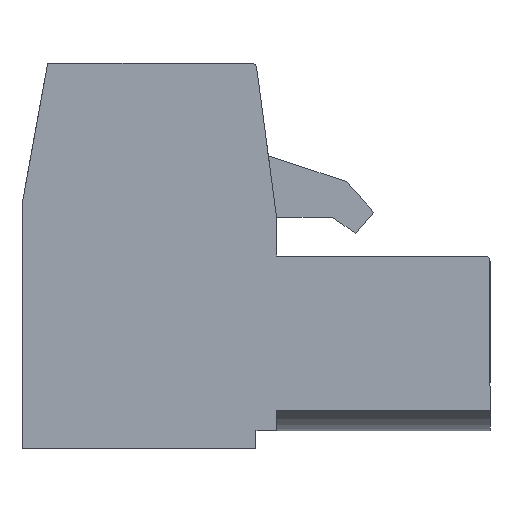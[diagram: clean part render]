
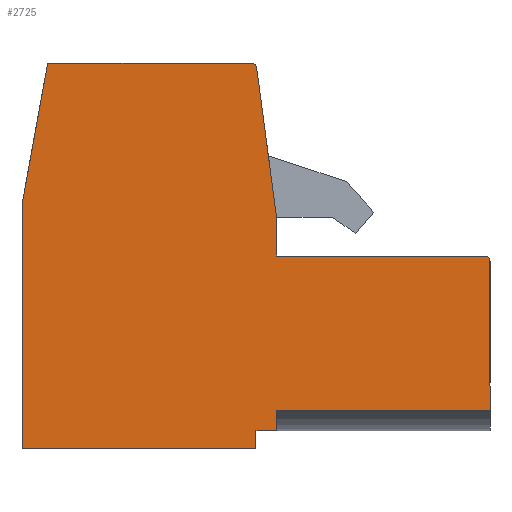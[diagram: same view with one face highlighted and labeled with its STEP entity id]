
A CAD part, left-side view. The second image highlights one B-rep face of the part: STEP entity #2725.
In plain terms, the highlighted planar face has unit normal (-1, 0, 0).
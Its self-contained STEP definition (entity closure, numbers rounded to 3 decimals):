
#1 = ORIENTED_EDGE ( 'NONE', *, *, #3418, .F. ) ;
#43 = ORIENTED_EDGE ( 'NONE', *, *, #3727, .F. ) ;
#72 = EDGE_CURVE ( 'NONE', #4187, #2419, #2511, .T. ) ;
#129 = EDGE_LOOP ( 'NONE', ( #3943, #3172, #4145, #239, #3995, #1, #1254, #2007, #2564, #1830, #43, #2865, #3054, #3210 ) ) ;
#158 = CARTESIAN_POINT ( 'NONE',  ( -7.6, 0., 0. ) ) ;
#180 = CARTESIAN_POINT ( 'NONE',  ( -7.6, -1., 15. ) ) ;
#239 = ORIENTED_EDGE ( 'NONE', *, *, #4026, .F. ) ;
#304 = DIRECTION ( 'NONE',  ( 0., 0., 1. ) ) ;
#336 = AXIS2_PLACEMENT_3D ( 'NONE', #3620, #2871, #4335 ) ;
#349 = CARTESIAN_POINT ( 'NONE',  ( -7.6, -18.2, 7.5 ) ) ;
#368 = CARTESIAN_POINT ( 'NONE',  ( -7.6, -18.2, 7.3 ) ) ;
#392 = LINE ( 'NONE', #1920, #4081 ) ;
#490 = CARTESIAN_POINT ( 'NONE',  ( -7.6, -9.1, 0. ) ) ;
#494 = VECTOR ( 'NONE', #3893, 1000. ) ;
#599 = EDGE_CURVE ( 'NONE', #4566, #3355, #1851, .T. ) ;
#617 = EDGE_CURVE ( 'NONE', #1574, #3158, #392, .T. ) ;
#648 = CARTESIAN_POINT ( 'NONE',  ( -7.6, -1., 15. ) ) ;
#670 = LINE ( 'NONE', #2075, #2025 ) ;
#727 = LINE ( 'NONE', #349, #2276 ) ;
#748 = CARTESIAN_POINT ( 'NONE',  ( -7.6, -9.9, 7.5 ) ) ;
#804 = CARTESIAN_POINT ( 'NONE',  ( -7.6, -8.925, 14.8 ) ) ;
#873 = VERTEX_POINT ( 'NONE', #985 ) ;
#955 = CARTESIAN_POINT ( 'NONE',  ( -7.6, -9.1, 0.7 ) ) ;
#985 = CARTESIAN_POINT ( 'NONE',  ( -7.6, -9.1, 0. ) ) ;
#1003 = CARTESIAN_POINT ( 'NONE',  ( -7.6, -18.2, 1.5 ) ) ;
#1037 = AXIS2_PLACEMENT_3D ( 'NONE', #4301, #4376, #4014 ) ;
#1099 = VECTOR ( 'NONE', #2304, 1000. ) ;
#1100 = CIRCLE ( 'NONE', #336, 0.2 ) ;
#1184 = DIRECTION ( 'NONE',  ( 0., 1., 0. ) ) ;
#1219 = VERTEX_POINT ( 'NONE', #4236 ) ;
#1242 = LINE ( 'NONE', #3483, #494 ) ;
#1254 = ORIENTED_EDGE ( 'NONE', *, *, #2818, .T. ) ;
#1285 = EDGE_CURVE ( 'NONE', #4566, #1219, #1100, .T. ) ;
#1401 = CARTESIAN_POINT ( 'NONE',  ( -7.6, -18.2, 0.7 ) ) ;
#1423 = EDGE_CURVE ( 'NONE', #2786, #3355, #2201, .T. ) ;
#1427 = LINE ( 'NONE', #3594, #1729 ) ;
#1574 = VERTEX_POINT ( 'NONE', #3899 ) ;
#1611 = EDGE_CURVE ( 'NONE', #2153, #2640, #3565, .T. ) ;
#1618 = DIRECTION ( 'NONE',  ( 0., -0.132, -0.991 ) ) ;
#1705 = CARTESIAN_POINT ( 'NONE',  ( -7.6, -9.123, 14.826 ) ) ;
#1729 = VECTOR ( 'NONE', #304, 1000. ) ;
#1817 = CARTESIAN_POINT ( 'NONE',  ( -7.6, -9.9, 1.5 ) ) ;
#1830 = ORIENTED_EDGE ( 'NONE', *, *, #2741, .F. ) ;
#1851 = LINE ( 'NONE', #1873, #1099 ) ;
#1873 = CARTESIAN_POINT ( 'NONE',  ( -7.6, -18.2, 7.5 ) ) ;
#1907 = EDGE_CURVE ( 'NONE', #2419, #873, #1242, .T. ) ;
#1920 = CARTESIAN_POINT ( 'NONE',  ( -7.6, -9.9, 7.5 ) ) ;
#2007 = ORIENTED_EDGE ( 'NONE', *, *, #1611, .F. ) ;
#2025 = VECTOR ( 'NONE', #4337, 1000. ) ;
#2075 = CARTESIAN_POINT ( 'NONE',  ( -7.6, -9.9, 0. ) ) ;
#2086 = EDGE_CURVE ( 'NONE', #2379, #2153, #2902, .T. ) ;
#2153 = VERTEX_POINT ( 'NONE', #3765 ) ;
#2201 = LINE ( 'NONE', #2272, #2250 ) ;
#2250 = VECTOR ( 'NONE', #3646, 1000. ) ;
#2272 = CARTESIAN_POINT ( 'NONE',  ( -7.6, -9.9, 1.5 ) ) ;
#2276 = VECTOR ( 'NONE', #3542, 1000. ) ;
#2304 = DIRECTION ( 'NONE',  ( 0., 0., -1. ) ) ;
#2363 = CARTESIAN_POINT ( 'NONE',  ( -7.6, -8.925, 15. ) ) ;
#2379 = VERTEX_POINT ( 'NONE', #3089 ) ;
#2419 = VERTEX_POINT ( 'NONE', #955 ) ;
#2424 = VECTOR ( 'NONE', #1184, 1000. ) ;
#2490 = EDGE_CURVE ( 'NONE', #4187, #2786, #670, .T. ) ;
#2494 = CIRCLE ( 'NONE', #2651, 0.2 ) ;
#2511 = LINE ( 'NONE', #1401, #3391 ) ;
#2564 = ORIENTED_EDGE ( 'NONE', *, *, #2086, .F. ) ;
#2640 = VERTEX_POINT ( 'NONE', #2363 ) ;
#2651 = AXIS2_PLACEMENT_3D ( 'NONE', #804, #3325, #3738 ) ;
#2654 = VECTOR ( 'NONE', #1618, 1000. ) ;
#2725 = ADVANCED_FACE ( 'NONE', ( #4670 ), #2933, .F. ) ;
#2741 = EDGE_CURVE ( 'NONE', #3838, #2379, #1427, .T. ) ;
#2786 = VERTEX_POINT ( 'NONE', #1817 ) ;
#2788 = VECTOR ( 'NONE', #3824, 1000. ) ;
#2818 = EDGE_CURVE ( 'NONE', #4442, #2640, #2494, .T. ) ;
#2865 = ORIENTED_EDGE ( 'NONE', *, *, #1907, .F. ) ;
#2871 = DIRECTION ( 'NONE',  ( -1., 0., 0. ) ) ;
#2902 = LINE ( 'NONE', #648, #2946 ) ;
#2933 = PLANE ( 'NONE',  #1037 ) ;
#2946 = VECTOR ( 'NONE', #3288, 1000. ) ;
#3054 = ORIENTED_EDGE ( 'NONE', *, *, #72, .F. ) ;
#3089 = CARTESIAN_POINT ( 'NONE',  ( -7.6, 0., 9.5 ) ) ;
#3158 = VERTEX_POINT ( 'NONE', #748 ) ;
#3172 = ORIENTED_EDGE ( 'NONE', *, *, #599, .F. ) ;
#3210 = ORIENTED_EDGE ( 'NONE', *, *, #2490, .T. ) ;
#3288 = DIRECTION ( 'NONE',  ( 0., -0.179, 0.984 ) ) ;
#3313 = DIRECTION ( 'NONE',  ( 0., 0., -1. ) ) ;
#3321 = DIRECTION ( 'NONE',  ( 0., 1., 0. ) ) ;
#3325 = DIRECTION ( 'NONE',  ( -1., 0., 0. ) ) ;
#3355 = VERTEX_POINT ( 'NONE', #1003 ) ;
#3391 = VECTOR ( 'NONE', #3321, 1000. ) ;
#3418 = EDGE_CURVE ( 'NONE', #4442, #1574, #4189, .T. ) ;
#3483 = CARTESIAN_POINT ( 'NONE',  ( -7.6, -9.1, 0.7 ) ) ;
#3498 = CARTESIAN_POINT ( 'NONE',  ( -7.6, -9.9, 9. ) ) ;
#3542 = DIRECTION ( 'NONE',  ( 0., -1., 0. ) ) ;
#3565 = LINE ( 'NONE', #180, #2788 ) ;
#3594 = CARTESIAN_POINT ( 'NONE',  ( -7.6, 0., 0. ) ) ;
#3620 = CARTESIAN_POINT ( 'NONE',  ( -7.6, -18., 7.3 ) ) ;
#3646 = DIRECTION ( 'NONE',  ( 0., -1., 0. ) ) ;
#3727 = EDGE_CURVE ( 'NONE', #873, #3838, #4134, .T. ) ;
#3738 = DIRECTION ( 'NONE',  ( 0., 0., -1. ) ) ;
#3765 = CARTESIAN_POINT ( 'NONE',  ( -7.6, -1., 15. ) ) ;
#3824 = DIRECTION ( 'NONE',  ( 0., -1., 0. ) ) ;
#3838 = VERTEX_POINT ( 'NONE', #158 ) ;
#3893 = DIRECTION ( 'NONE',  ( 0., 0., -1. ) ) ;
#3899 = CARTESIAN_POINT ( 'NONE',  ( -7.6, -9.9, 9. ) ) ;
#3943 = ORIENTED_EDGE ( 'NONE', *, *, #1423, .T. ) ;
#3995 = ORIENTED_EDGE ( 'NONE', *, *, #617, .F. ) ;
#4014 = DIRECTION ( 'NONE',  ( 0., 0., -1. ) ) ;
#4026 = EDGE_CURVE ( 'NONE', #3158, #1219, #727, .T. ) ;
#4081 = VECTOR ( 'NONE', #3313, 1000. ) ;
#4134 = LINE ( 'NONE', #490, #2424 ) ;
#4145 = ORIENTED_EDGE ( 'NONE', *, *, #1285, .T. ) ;
#4187 = VERTEX_POINT ( 'NONE', #4469 ) ;
#4189 = LINE ( 'NONE', #3498, #2654 ) ;
#4236 = CARTESIAN_POINT ( 'NONE',  ( -7.6, -18., 7.5 ) ) ;
#4301 = CARTESIAN_POINT ( 'NONE',  ( -7.6, 0., 0. ) ) ;
#4335 = DIRECTION ( 'NONE',  ( 0., 0., -1. ) ) ;
#4337 = DIRECTION ( 'NONE',  ( 0., 0., 1. ) ) ;
#4376 = DIRECTION ( 'NONE',  ( 1., 0., 0. ) ) ;
#4442 = VERTEX_POINT ( 'NONE', #1705 ) ;
#4469 = CARTESIAN_POINT ( 'NONE',  ( -7.6, -9.9, 0.7 ) ) ;
#4566 = VERTEX_POINT ( 'NONE', #368 ) ;
#4670 = FACE_OUTER_BOUND ( 'NONE', #129, .T. ) ;
